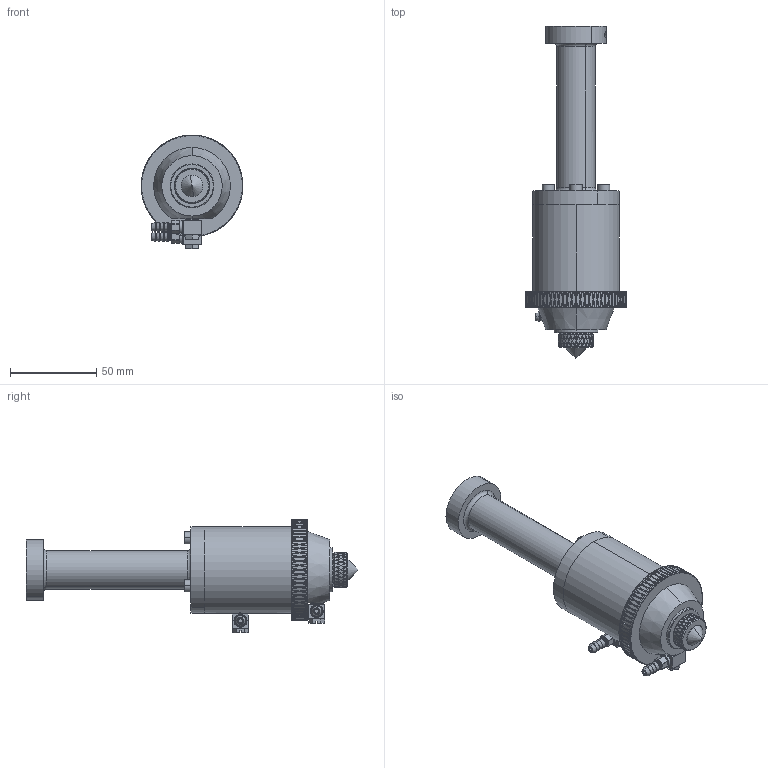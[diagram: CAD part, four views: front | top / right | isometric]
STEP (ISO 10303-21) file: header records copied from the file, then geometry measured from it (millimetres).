
FILE_DESCRIPTION (( 'STEP AP214' ), '1' );
FILE_NAME ('PHF-25-50.STEP', '2016-10-21T20:23:22', ( '' ), ( '' ), 'SwSTEP 2.0', 'SolidWorks 2016', '' );
FILE_SCHEMA (( 'AUTOMOTIVE_DESIGN' ));
Length unit declared in the file: inch
Products named in the file (1): PHF-25-50
Bounding box: 58.72 x 192.04 x 65.79 mm (x, y, z)
Volume: 155498.1 mm3; surface area: 44237.8 mm2
Topology: 1 solids, 2 shells, 1882 faces, 5404 edges, 3525 vertices
Faces by surface type: plane 1243, cylinder 477, torus 86, sphere 40, cone 36
Entity records: 61208 total; most frequent: CARTESIAN_POINT 14934, ORIENTED_EDGE 10728, DIRECTION 8693, EDGE_CURVE 5364, VERTEX_POINT 3525, VECTOR 3145, LINE 3145, AXIS2_PLACEMENT_3D 2774
